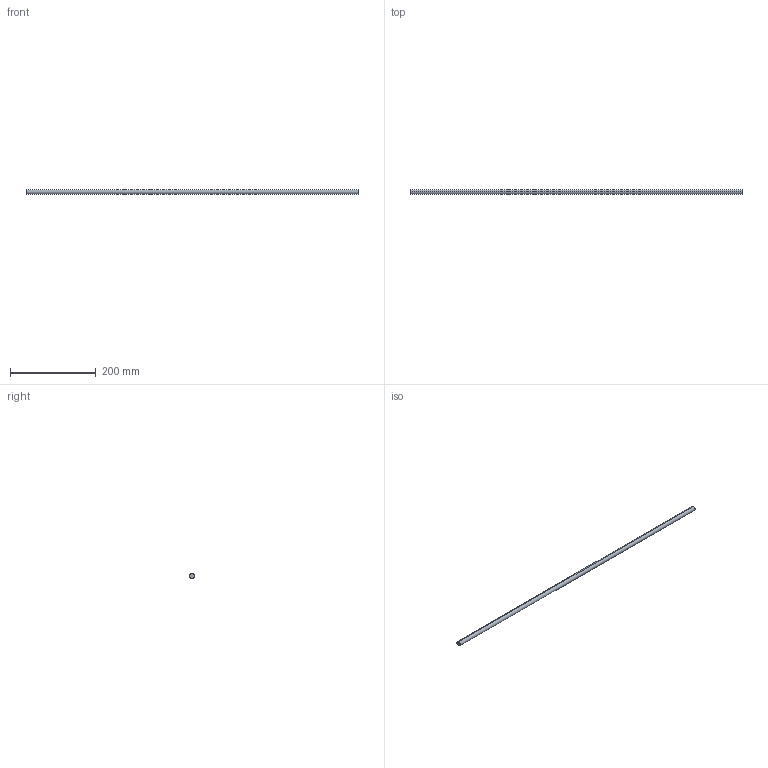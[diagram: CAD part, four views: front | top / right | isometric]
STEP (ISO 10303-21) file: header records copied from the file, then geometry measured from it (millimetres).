
FILE_DESCRIPTION (( 'STEP AP214' ), '1' );
FILE_NAME ('Querreling_2S-Rel_7102_25mm-Halter_KAB-900.step', '2010-09-22T15:06:07', ( 'grass' ), ( '' ), 'SwSTEP 2.0', 'SolidWorks 2010', '' );
FILE_SCHEMA (( 'AUTOMOTIVE_DESIGN' ));
Length unit declared in the file: millimetre
Products named in the file (1): Querreling_2S-Rel_7102_25mm-Halter_KAB-900
Bounding box: 774 x 11 x 11 mm (x, y, z)
Volume: 73555.7 mm3; surface area: 26937.6 mm2
Topology: 1 solids, 1 shells, 4 faces, 6 edges, 4 vertices
Faces by surface type: cylinder 2, plane 2
Entity records: 128 total; most frequent: DIRECTION 20, CARTESIAN_POINT 15, ORIENTED_EDGE 12, AXIS2_PLACEMENT_3D 9, EDGE_CURVE 6, VERTEX_POINT 4, EDGE_LOOP 4, CIRCLE 4
